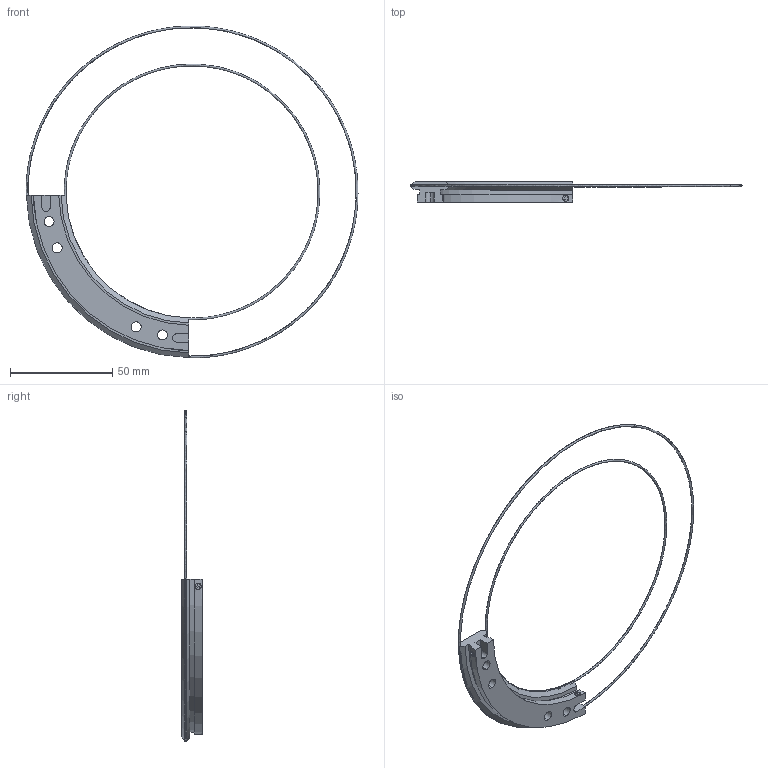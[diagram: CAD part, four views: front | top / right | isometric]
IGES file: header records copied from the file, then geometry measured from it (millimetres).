
Start section: 3D InterOp IGES (v. 2019 1.0.2), Spatial Corp. Copyright (c) 1999-2017.
Global section: file name: TR20 143 R90.igs; native system: Spatial Corp.; preprocessor: 3D InterOp GENERIC/IGES 3.0; author: Noname; organization: Noname; date: 20220628.160222; units: millimetre
Bounding box: 162.62 x 10 x 162.62 mm (x, y, z)
Surface area: 11868.9 mm2 (no closed solid volume)
Topology: 0 solids, 0 shells, 88 faces, 450 edges, 447 vertices
Faces by surface type: extrusion 50, revolution 38
